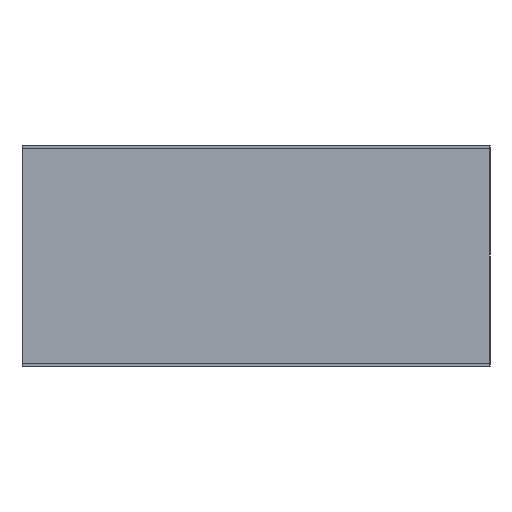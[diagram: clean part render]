
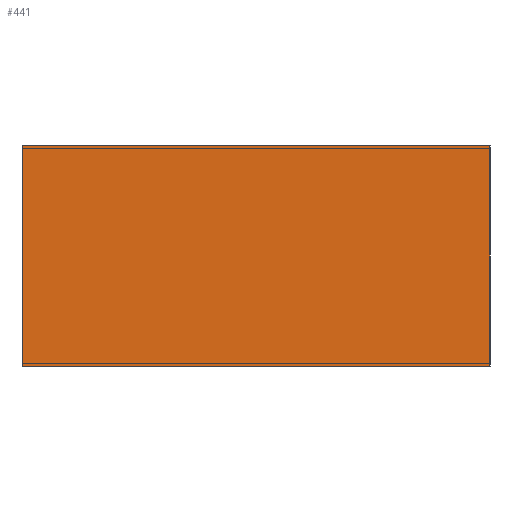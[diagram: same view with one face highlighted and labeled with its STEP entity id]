
A CAD part, left-side view. The second image highlights one B-rep face of the part: STEP entity #441.
In plain terms, the highlighted planar face has unit normal (-1, 0, 0).
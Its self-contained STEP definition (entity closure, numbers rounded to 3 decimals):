
#23=FACE_OUTER_BOUND('',#49,.T.);
#49=EDGE_LOOP('',(#311,#312,#313,#314));
#79=LINE('',#645,#139);
#81=LINE('',#649,#141);
#86=LINE('',#659,#146);
#87=LINE('',#660,#147);
#139=VECTOR('',#527,10.);
#141=VECTOR('',#531,10.);
#146=VECTOR('',#538,10.);
#147=VECTOR('',#539,10.);
#197=VERTEX_POINT('',#642);
#198=VERTEX_POINT('',#644);
#199=VERTEX_POINT('',#648);
#203=VERTEX_POINT('',#658);
#239=EDGE_CURVE('',#198,#197,#79,.T.);
#241=EDGE_CURVE('',#199,#198,#81,.T.);
#246=EDGE_CURVE('',#197,#203,#86,.T.);
#247=EDGE_CURVE('',#199,#203,#87,.T.);
#311=ORIENTED_EDGE('',*,*,#246,.T.);
#312=ORIENTED_EDGE('',*,*,#247,.F.);
#313=ORIENTED_EDGE('',*,*,#241,.T.);
#314=ORIENTED_EDGE('',*,*,#239,.T.);
#415=PLANE('',#489);
#441=ADVANCED_FACE('',(#23),#415,.T.);
#489=AXIS2_PLACEMENT_3D('',#657,#536,#537);
#527=DIRECTION('',(0.,1.,0.));
#531=DIRECTION('',(0.,0.,1.));
#536=DIRECTION('center_axis',(-1.,0.,0.));
#537=DIRECTION('ref_axis',(0.,0.,1.));
#538=DIRECTION('',(0.,0.,-1.));
#539=DIRECTION('',(0.,1.,0.));
#642=CARTESIAN_POINT('',(-0.005,0.85,0.395));
#644=CARTESIAN_POINT('',(-0.005,0.,0.395));
#645=CARTESIAN_POINT('',(-0.005,0.,0.395));
#648=CARTESIAN_POINT('',(-0.005,0.,-0.005));
#649=CARTESIAN_POINT('',(-0.005,0.,-0.005));
#657=CARTESIAN_POINT('Origin',(-0.005,-0.001,0.195));
#658=CARTESIAN_POINT('',(-0.005,0.85,-0.005));
#659=CARTESIAN_POINT('',(-0.005,0.85,0.395));
#660=CARTESIAN_POINT('',(-0.005,0.,-0.005));
